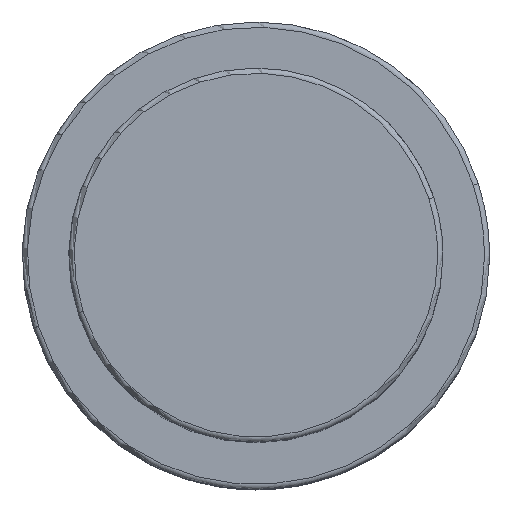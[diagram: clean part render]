
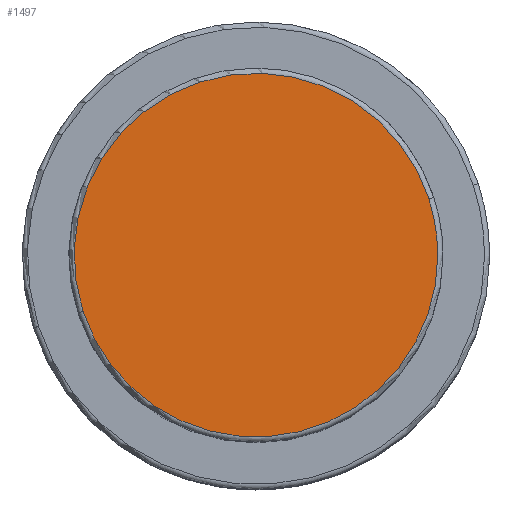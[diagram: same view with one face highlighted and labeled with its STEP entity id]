
A CAD part, top view. The second image highlights one B-rep face of the part: STEP entity #1497.
In plain terms, the highlighted planar face has unit normal (0, 0, 1).
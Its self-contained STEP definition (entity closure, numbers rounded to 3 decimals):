
#1463=CARTESIAN_POINT('',(17.5,0.0,63.0));
#1464=VERTEX_POINT('',#1463);
#1465=CARTESIAN_POINT('',(16.643,5.408,63.0));
#1466=VERTEX_POINT('',#1465);
#1467=CARTESIAN_POINT('',(0.0,0.0,63.0));
#1468=DIRECTION('',(0.0,0.0,1.0));
#1469=DIRECTION('',(1.0,0.0,0.0));
#1470=AXIS2_PLACEMENT_3D('',#1467,#1468,#1469);
#1471=CIRCLE('',#1470,17.5);
#1472=EDGE_CURVE('no 1730',#1464,#1466,#1471,.T.);
#1473=ORIENTED_EDGE('',*,*,#1472,.T.);
#1474=CARTESIAN_POINT('',(-16.643,-5.408,63.0));
#1475=VERTEX_POINT('',#1474);
#1476=CARTESIAN_POINT('',(0.0,0.0,63.0));
#1477=DIRECTION('',(0.0,0.0,1.0));
#1478=DIRECTION('',(1.0,0.0,0.0));
#1479=AXIS2_PLACEMENT_3D('',#1476,#1477,#1478);
#1480=CIRCLE('',#1479,17.5);
#1481=EDGE_CURVE('no 1736',#1466,#1475,#1480,.T.);
#1482=ORIENTED_EDGE('',*,*,#1481,.T.);
#1483=CARTESIAN_POINT('',(0.0,0.0,63.0));
#1484=DIRECTION('',(0.0,0.0,1.0));
#1485=DIRECTION('',(1.0,0.0,0.0));
#1486=AXIS2_PLACEMENT_3D('',#1483,#1484,#1485);
#1487=CIRCLE('',#1486,17.5);
#1488=EDGE_CURVE('no 1740',#1475,#1464,#1487,.T.);
#1489=ORIENTED_EDGE('',*,*,#1488,.T.);
#1490=EDGE_LOOP('',(#1473,#1482,#1489));
#1491=FACE_OUTER_BOUND('',#1490,.T.);
#1492=CARTESIAN_POINT('',(0.0,0.0,63.0));
#1493=DIRECTION('',(0.0,0.0,1.0));
#1494=DIRECTION('',(1.0,0.0,0.0));
#1495=AXIS2_PLACEMENT_3D('',#1492,#1493,#1494);
#1496=PLANE('',#1495);
#1497=ADVANCED_FACE('no 1721',(#1491),#1496,.T.);
